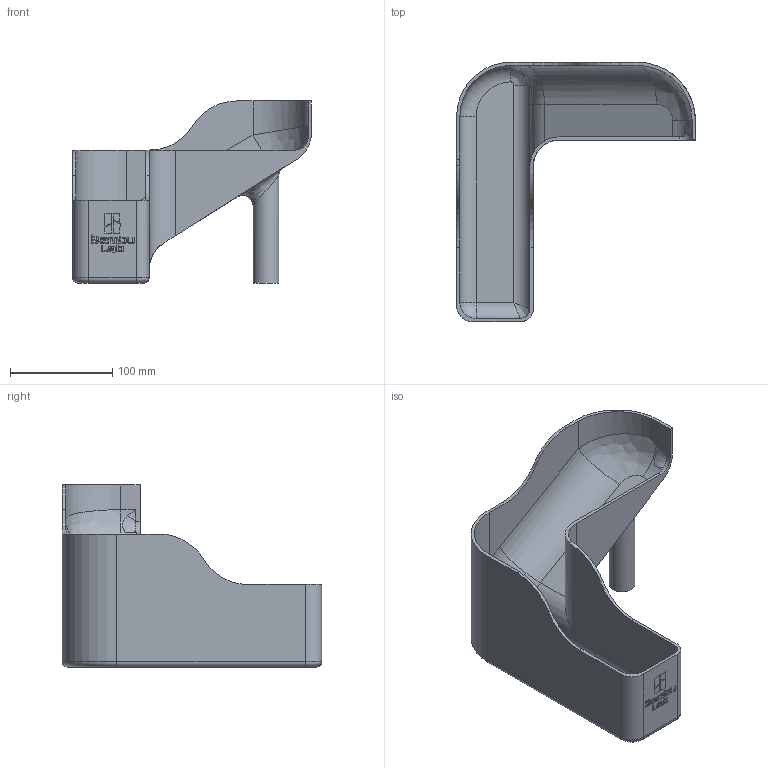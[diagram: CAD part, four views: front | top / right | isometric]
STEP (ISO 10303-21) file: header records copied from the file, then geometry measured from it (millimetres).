
FILE_DESCRIPTION(/* description */ (''),/* implementation_level */ '2;1');
FILE_NAME(/* name */ 'V1.3_POOPY_SHOE_Shortened_Narrower_STEP v3.step',/* time_stamp */ '2023-06-27T08:51:00+02:00',/* author */ (''),/* organization */ (''),/* preprocessor_version */ 'ST-DEVELOPER v19.2',/* originating_system */ 'Autodesk Translation Framework v12.6.0.85',/* authorisation */ '');
FILE_SCHEMA (('AUTOMOTIVE_DESIGN { 1 0 10303 214 3 1 1 }'));
Length unit declared in the file: millimetre
Products named in the file (1): V1.3_POOPY_SHOE_Shortened_Narrower_STEP
Bounding box: 233.75 x 254 x 178.2 mm (x, y, z)
Volume: 502361 mm3; surface area: 218419.6 mm2
Topology: 1 solids, 1 shells, 239 faces, 644 edges, 420 vertices
Faces by surface type: bspline 125, plane 74, cylinder 33, torus 6, sphere 1
Full cylindrical faces by diameter (mm): 25.4 x1
Entity records: 9681 total; most frequent: CARTESIAN_POINT 4462, ORIENTED_EDGE 1278, DIRECTION 692, EDGE_CURVE 639, VERTEX_POINT 420, LINE 304, VECTOR 304, EDGE_LOOP 257
